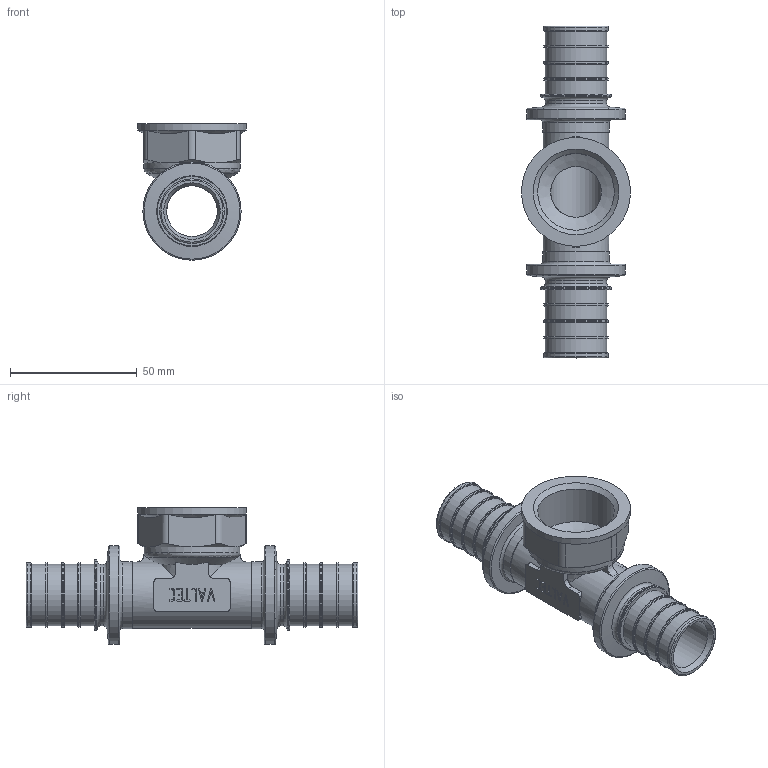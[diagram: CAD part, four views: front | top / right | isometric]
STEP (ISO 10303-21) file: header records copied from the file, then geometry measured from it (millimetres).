
FILE_DESCRIPTION(('STEP AP203'), '1');
FILE_NAME('ÂÐ.752249.027 - VTm.432.G.320632 Ôèò. òðîé. ñ ïåð', '', ('UNSPECIFIED'), ('UNSPECIFIED'), 'C3D Converter', 'C3D Toolkit', '');
FILE_SCHEMA(('CONFIG_CONTROL_DESIGN'));
Length unit declared in the file: millimetre
Products named in the file (1): ВР.752249.027
Bounding box: 43 x 131 x 53.9 mm (x, y, z)
Volume: 43116.7 mm3; surface area: 28699 mm2
Topology: 1 solids, 1 shells, 389 faces, 1017 edges, 661 vertices
Faces by surface type: extrusion 142, plane 141, cylinder 52, torus 35, cone 17, bspline 2
Full cylindrical faces by diameter (mm): 20 x2, 24.3 x10, 25.5 x8, 26 x1, 26.4 x2, 27.9 x2, 30.292 x1, 38 x1, 38.8 x2, 43 x1
Entity records: 17150 total; most frequent: CARTESIAN_POINT 5346, ORIENTED_EDGE 1892, DIRECTION 1336, EDGE_CURVE 946, VERTEX_POINT 661, VECTOR 592, B_SPLINE_CURVE_WITH_KNOTS 505, EDGE_LOOP 495
